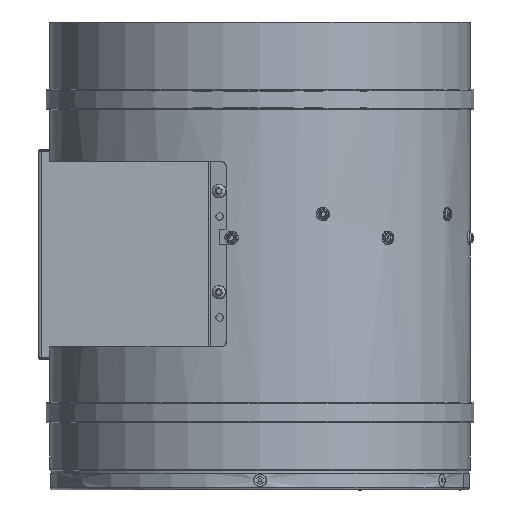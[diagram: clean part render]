
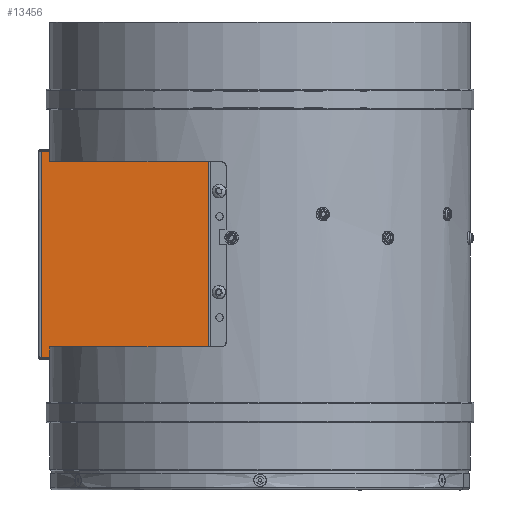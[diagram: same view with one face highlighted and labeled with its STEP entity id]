
A CAD part, left-side view. The second image highlights one B-rep face of the part: STEP entity #13456.
In plain terms, the highlighted planar face has unit normal (-1, 0, 0).
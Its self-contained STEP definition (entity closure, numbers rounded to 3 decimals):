
#587 = EDGE_LOOP ( 'NONE', ( #5207, #5518, #5241, #5631, #5295, #5147, #5528, #5697 ) ) ;
#2882 = CARTESIAN_POINT ( 'NONE',  ( -122.323, 125., -1079. ) ) ;
#2887 = DIRECTION ( 'NONE',  ( 0., 0., 1. ) ) ;
#5147 = ORIENTED_EDGE ( 'NONE', *, *, #9614, .T. ) ;
#5207 = ORIENTED_EDGE ( 'NONE', *, *, #9040, .F. ) ;
#5241 = ORIENTED_EDGE ( 'NONE', *, *, #8763, .T. ) ;
#5295 = ORIENTED_EDGE ( 'NONE', *, *, #11277, .F. ) ;
#5518 = ORIENTED_EDGE ( 'NONE', *, *, #8806, .F. ) ;
#5528 = ORIENTED_EDGE ( 'NONE', *, *, #9220, .T. ) ;
#5631 = ORIENTED_EDGE ( 'NONE', *, *, #11201, .F. ) ;
#5697 = ORIENTED_EDGE ( 'NONE', *, *, #9572, .F. ) ;
#8169 = CARTESIAN_POINT ( 'NONE',  ( -122.323, 125., -1079. ) ) ;
#8187 = DIRECTION ( 'NONE',  ( 0., 0., 1. ) ) ;
#8763 = EDGE_CURVE ( 'NONE', #17214, #16947, #17357, .T. ) ;
#8806 = EDGE_CURVE ( 'NONE', #17214, #17039, #15192, .T. ) ;
#9040 = EDGE_CURVE ( 'NONE', #17039, #16865, #15256, .T. ) ;
#9220 = EDGE_CURVE ( 'NONE', #17307, #16882, #20458, .T. ) ;
#9572 = EDGE_CURVE ( 'NONE', #16865, #16882, #19899, .T. ) ;
#9614 = EDGE_CURVE ( 'NONE', #17261, #17307, #19649, .T. ) ;
#11201 = EDGE_CURVE ( 'NONE', #17213, #16947, #18869, .T. ) ;
#11277 = EDGE_CURVE ( 'NONE', #17261, #17213, #18942, .T. ) ;
#11789 = CARTESIAN_POINT ( 'NONE',  ( -122.323, 125., 153.5 ) ) ;
#11844 = CARTESIAN_POINT ( 'NONE',  ( -122.323, 125., 269.7 ) ) ;
#11855 = CARTESIAN_POINT ( 'NONE',  ( -122.323, 129.8, 269.7 ) ) ;
#12454 = CARTESIAN_POINT ( 'NONE',  ( -122.323, 125., 147.3 ) ) ;
#12505 = CARTESIAN_POINT ( 'NONE',  ( -122.323, 129.8, 147.3 ) ) ;
#12516 = CARTESIAN_POINT ( 'NONE',  ( -122.323, 30.77, 263.5 ) ) ;
#12586 = CARTESIAN_POINT ( 'NONE',  ( -122.323, 30.77, 153.5 ) ) ;
#13456 = ADVANCED_FACE ( 'NONE', ( #23941 ), #17957, .F. ) ;
#15175 = VECTOR ( 'NONE', #15904, 1000. ) ;
#15192 = LINE ( 'NONE', #15903, #15175 ) ;
#15214 = VECTOR ( 'NONE', #15719, 1000. ) ;
#15256 = LINE ( 'NONE', #15543, #15214 ) ;
#15543 = CARTESIAN_POINT ( 'NONE',  ( -122.323, 129.8, -1079. ) ) ;
#15719 = DIRECTION ( 'NONE',  ( 0., 0., 1. ) ) ;
#15903 = CARTESIAN_POINT ( 'NONE',  ( -122.323, 125., 147.3 ) ) ;
#15904 = DIRECTION ( 'NONE',  ( 0., 1., 0. ) ) ;
#16265 = CARTESIAN_POINT ( 'NONE',  ( -122.323, 30.77, 263.5 ) ) ;
#16266 = DIRECTION ( 'NONE',  ( 0., 0., -1. ) ) ;
#16613 = DIRECTION ( 'NONE',  ( 0., 1., 0. ) ) ;
#16616 = CARTESIAN_POINT ( 'NONE',  ( -122.323, 30.77, 153.5 ) ) ;
#16865 = VERTEX_POINT ( 'NONE', #11855 ) ;
#16882 = VERTEX_POINT ( 'NONE', #11844 ) ;
#16947 = VERTEX_POINT ( 'NONE', #11789 ) ;
#17039 = VERTEX_POINT ( 'NONE', #12505 ) ;
#17213 = VERTEX_POINT ( 'NONE', #12586 ) ;
#17214 = VERTEX_POINT ( 'NONE', #12454 ) ;
#17261 = VERTEX_POINT ( 'NONE', #12516 ) ;
#17307 = VERTEX_POINT ( 'NONE', #24659 ) ;
#17346 = VECTOR ( 'NONE', #2887, 1000. ) ;
#17357 = LINE ( 'NONE', #2882, #17346 ) ;
#17951 = DIRECTION ( 'NONE',  ( 1., 0., 0. ) ) ;
#17953 = DIRECTION ( 'NONE',  ( 0., 0., -1. ) ) ;
#17957 = PLANE ( 'NONE',  #20221 ) ;
#17961 = CARTESIAN_POINT ( 'NONE',  ( -122.323, 125., -1079. ) ) ;
#18859 = VECTOR ( 'NONE', #16613, 1000. ) ;
#18869 = LINE ( 'NONE', #16616, #18859 ) ;
#18904 = VECTOR ( 'NONE', #16266, 1000. ) ;
#18942 = LINE ( 'NONE', #16265, #18904 ) ;
#19637 = VECTOR ( 'NONE', #8187, 1000. ) ;
#19649 = LINE ( 'NONE', #22957, #20043 ) ;
#19899 = LINE ( 'NONE', #22416, #19915 ) ;
#19915 = VECTOR ( 'NONE', #22384, 1000. ) ;
#20043 = VECTOR ( 'NONE', #23177, 1000. ) ;
#20221 = AXIS2_PLACEMENT_3D ( 'NONE', #17961, #17951, #17953 ) ;
#20458 = LINE ( 'NONE', #8169, #19637 ) ;
#22384 = DIRECTION ( 'NONE',  ( 0., -1., 0. ) ) ;
#22416 = CARTESIAN_POINT ( 'NONE',  ( -122.323, 125., 269.7 ) ) ;
#22957 = CARTESIAN_POINT ( 'NONE',  ( -122.323, 30.77, 263.5 ) ) ;
#23177 = DIRECTION ( 'NONE',  ( 0., 1., 0. ) ) ;
#23941 = FACE_OUTER_BOUND ( 'NONE', #587, .T. ) ;
#24659 = CARTESIAN_POINT ( 'NONE',  ( -122.323, 125., 263.5 ) ) ;
